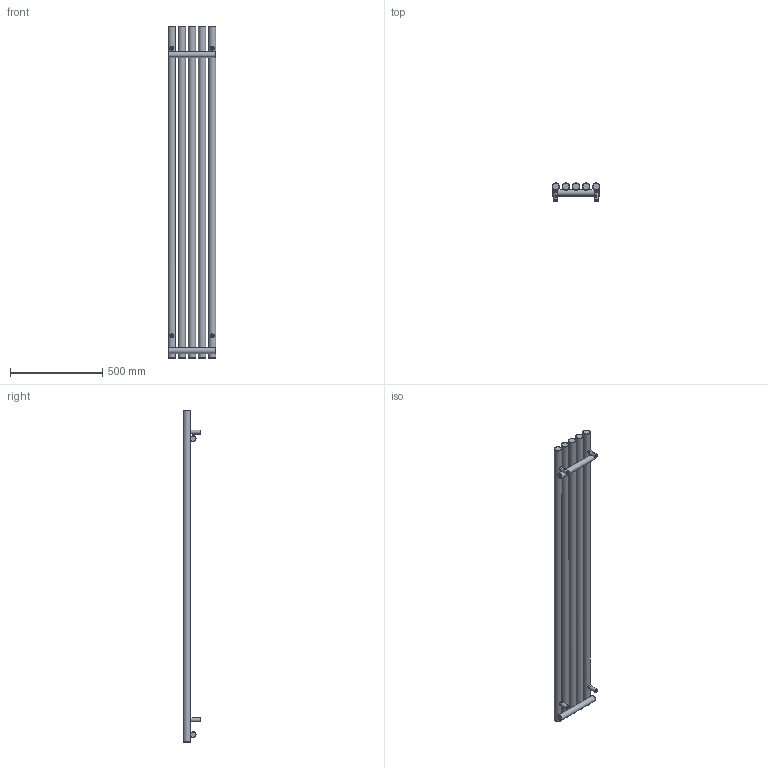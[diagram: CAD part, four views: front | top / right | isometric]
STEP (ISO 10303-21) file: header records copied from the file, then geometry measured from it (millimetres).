
FILE_DESCRIPTION(/* description */ (''),/* implementation_level */ '2;1');
FILE_NAME(/* name */ 'Z:\R\G\P\RGP116 - Grzejniki Geyser\Work\Inventor\Circolo (Rolo V, Rolo H)\ROLO-ROOM\Marketing\Bryły 3D\Zaokrąglone\WLROR180026-ES-CK-(Z).stp',/* time_stamp */ '2024-03-29T15:52:04+01:00',/* author */ ('NowAd'),/* organization */ (''),/* preprocessor_version */ 'ST-DEVELOPER v17.2',/* originating_system */ 'Autodesk Inventor 2019',/* authorisation */ '');
FILE_SCHEMA (('AUTOMOTIVE_DESIGN { 1 0 10303 214 3 1 1 }'));
Length unit declared in the file: millimetre
Products named in the file (3): WLROR180026-ES-CK-(Z); PGROR180026-ES-CK-(K); CK-V-fi40 marketing
Assembly tree (5 placements, depth 2):
  WLROR180026-ES-CK-(Z)
    PGROR180026-ES-CK-(K)
    CK-V-fi40 marketing  x4
Bounding box: 260 x 96.5 x 1800 mm (x, y, z)
Volume: 11769385.7 mm3; surface area: 1224771.6 mm2
Topology: 5 solids, 5 shells, 317 faces, 799 edges, 534 vertices
Faces by surface type: plane 132, cylinder 73, cone 60, torus 42, bspline 10
Full cylindrical faces by diameter (mm): 4.134 x4, 4.48 x4, 6.4 x4, 10 x4, 12 x4, 15.834 x4, 16 x4, 18.631 x2, 22 x4, 32 x2, 40 x5
Entity records: 6552 total; most frequent: CARTESIAN_POINT 3316, DIRECTION 676, ORIENTED_EDGE 636, EDGE_CURVE 318, AXIS2_PLACEMENT_3D 301, VERTEX_POINT 216, EDGE_LOOP 172, CIRCLE 161
